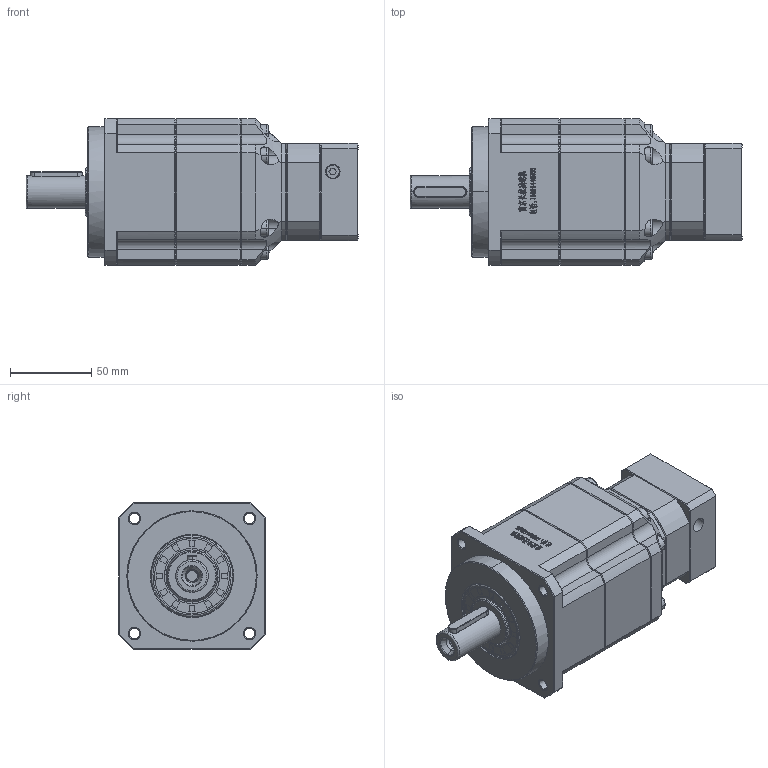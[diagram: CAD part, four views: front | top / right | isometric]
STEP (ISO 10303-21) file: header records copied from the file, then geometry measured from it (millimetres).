
FILE_DESCRIPTION (( 'STEP AP214' ), '1' );
FILE_NAME ('ZPB090-D20-L3-P1-8-38.1-47.14X47.14-M4.step', '2024-06-07T18:18:14', ( 'Windows 蚚誧' ), ( 'Organization' ), 'SwSTEP 2.0', 'SolidWorks 2016', '' );
FILE_SCHEMA (( 'AUTOMOTIVE_DESIGN' ));
Length unit declared in the file: millimetre
Products named in the file (1): ZPB090-D20-L3-P1-8-38.1-47.14X47.14-M4
Bounding box: 204 x 90 x 90 mm (x, y, z)
Surface area: 81021 mm2 (no closed solid volume)
Topology: 0 solids, 32 shells, 2182 faces, 5770 edges, 3655 vertices
Faces by surface type: plane 1118, bspline 381, cone 331, cylinder 328, torus 24
Entity records: 106594 total; most frequent: CARTESIAN_POINT 51591, ORIENTED_EDGE 11502, DIRECTION 8592, EDGE_CURVE 5770, VERTEX_POINT 3655, LINE 3320, VECTOR 3320, AXIS2_PLACEMENT_3D 2636
